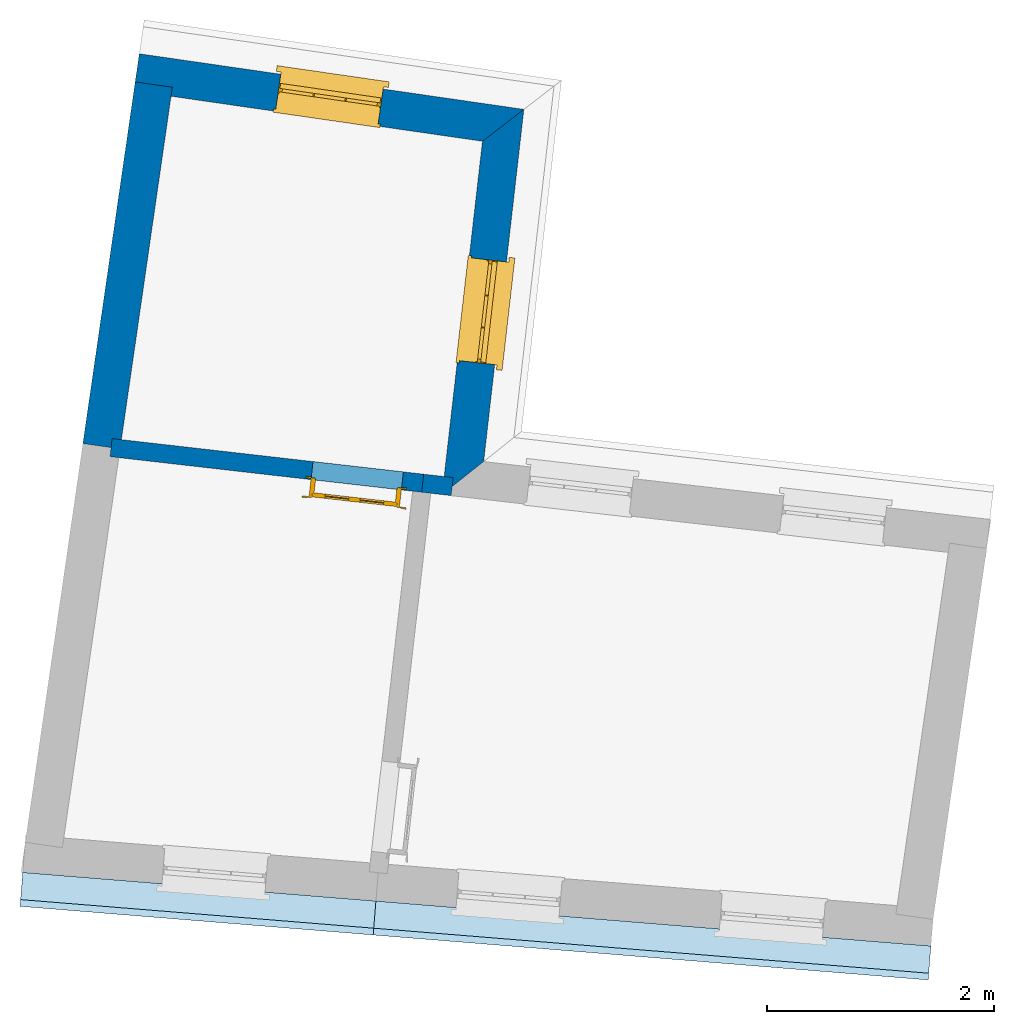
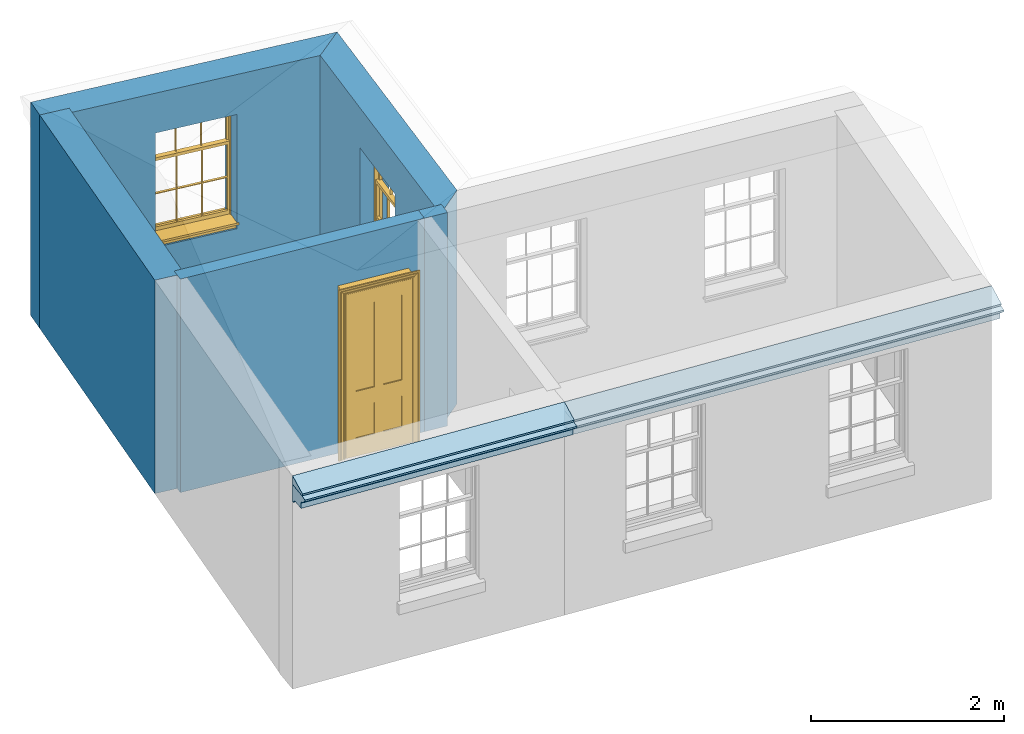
# One storey, part 2 of 3: 5 walls, 4 roofs, 2 windows, 1 door, 3 openings.
"""IFC4 building model written with IfcOpenShell, lengths in metres."""

import ifcopenshell
import ifcopenshell.guid

model = None  # the IFC model being written
_history = None  # IfcOwnerHistory: only IFC2X3 demands one
_inside = {}  # id of a spatial element -> (the spatial element, [elements in it])
_under = {}  # id of a project, library or spatial element -> (it, [spatial elements below it])
_declared = {}  # id of a project -> (the project, [libraries it declares])
_typed = {}  # id of a type object -> (the type object, [elements of that type])
_made_of = {}  # id of a material, layer set ... -> (it, [elements and type objects made of it])


def new_model(schema):
    """Start an empty IFC model of exactly this schema.

    Asked for "IFC4X3", IfcOpenShell would pick the latest addendum, in which some entities
    have other attributes; the version numbers below select the first issue.
    IFC2X3 requires an IfcOwnerHistory on every rooted entity: one is made here for all.
    """
    global model, _history
    if schema == "IFC4X3":
        model = ifcopenshell.file(schema_version=(4, 3, 0, 0))
    else:
        model = ifcopenshell.file(schema=schema)
    _inside.clear()
    _under.clear()
    _declared.clear()
    _typed.clear()
    _made_of.clear()
    _history = None
    if model.schema == "IFC2X3":
        org = make("IfcOrganization", Name="unknown")
        user = make(
            "IfcPersonAndOrganization",
            ThePerson=make("IfcPerson", FamilyName="unknown"),
            TheOrganization=org,
        )
        app = make(
            "IfcApplication",
            ApplicationDeveloper=org,
            Version="unknown",
            ApplicationFullName="unknown",
            ApplicationIdentifier="unknown",
        )
        _history = make(
            "IfcOwnerHistory",
            OwningUser=user,
            OwningApplication=app,
            ChangeAction="ADDED",
            CreationDate=0,
        )
    return model


def make(cls, **values):
    """One entity of the class cls with the attributes given. An attribute that is None is left unset."""
    return model.create_entity(
        cls, **{name: value for name, value in values.items() if value is not None}
    )


def rooted(cls, **values):
    """An entity with a GlobalId (a new one), such as an element, a storey or a relation."""
    return make(cls, GlobalId=ifcopenshell.guid.new(), OwnerHistory=_history, **values)


def si_unit(unit_type, name, prefix=None):
    """IfcSIUnit, for example si_unit("LENGTHUNIT", "METRE", prefix="MILLI")."""
    return make("IfcSIUnit", UnitType=unit_type, Prefix=prefix, Name=name)


def assignment(units):
    """IfcUnitAssignment: the units of a project."""
    return None if units is None else make("IfcUnitAssignment", Units=units)


def point(xyz):
    """IfcCartesianPoint."""
    return None if xyz is None else make("IfcCartesianPoint", Coordinates=xyz)


def direction(xyz):
    """IfcDirection."""
    return None if xyz is None else make("IfcDirection", DirectionRatios=xyz)


def frame(location, z_axis=None, x_axis=None):
    """IfcAxis2Placement3D, a coordinate frame: its origin and axes. An axis left out is left unset."""
    return make(
        "IfcAxis2Placement3D",
        Location=point(location),
        Axis=direction(z_axis),
        RefDirection=direction(x_axis),
    )


def origin():
    """The frame at (0, 0, 0) with its axes left unset."""
    return frame((0.0, 0.0, 0.0))


def origin_with_axes():
    """The frame at (0, 0, 0) with the z axis (0, 0, 1) and the x axis (1, 0, 0) written out."""
    return frame((0.0, 0.0, 0.0), z_axis=(0.0, 0.0, 1.0), x_axis=(1.0, 0.0, 0.0))


def place(relative_to, where):
    """IfcLocalPlacement: puts the frame where relative to a parent placement (None: the world)."""
    return make(
        "IfcLocalPlacement", PlacementRelTo=relative_to, RelativePlacement=where
    )


def context(
    kind, dimensions, precision=None, world=None, true_north=None, identifier=None
):
    """IfcGeometricRepresentationContext, for example the 3D "Model" context."""
    return make(
        "IfcGeometricRepresentationContext",
        ContextIdentifier=identifier,
        ContextType=kind,
        CoordinateSpaceDimension=dimensions,
        Precision=precision,
        WorldCoordinateSystem=world,
        TrueNorth=true_north,
    )


def subcontext(parent, identifier, kind, view, scale=None):
    """IfcGeometricRepresentationSubContext, for example "Body" below "Model"."""
    return make(
        "IfcGeometricRepresentationSubContext",
        ContextIdentifier=identifier,
        ContextType=kind,
        ParentContext=parent,
        TargetScale=scale,
        TargetView=view,
    )


def project(units=None, contexts=None):
    """IfcProject with its units and contexts."""
    return rooted(
        "IfcProject",
        Name="project",
        RepresentationContexts=contexts,
        UnitsInContext=assignment(units),
    )


def spatial(cls, under=None, at=None, **own):
    """A site, building, storey or space (cls), placed at a placement, below another one or the project."""
    s = rooted(cls, ObjectPlacement=at, **own)
    if under is not None:
        _under.setdefault(under.id(), (under, []))[1].append(s)
    return s


def polyline(points):
    """IfcPolyline through the points."""
    return make("IfcPolyline", Points=[point(p) for p in points])


def outline(outer, holes=None, kind="AREA"):
    """IfcArbitraryClosedProfileDef: a profile drawn as a closed curve; with holes, ...WithVoids."""
    if holes is None:
        return make("IfcArbitraryClosedProfileDef", ProfileType=kind, OuterCurve=outer)
    return make(
        "IfcArbitraryProfileDefWithVoids",
        ProfileType=kind,
        OuterCurve=outer,
        InnerCurves=holes,
    )


def extrude(swept, where, along, depth):
    """IfcExtrudedAreaSolid: the profile swept, set in the frame where, extruded along a direction by depth."""
    return make(
        "IfcExtrudedAreaSolid",
        SweptArea=swept,
        Position=where,
        ExtrudedDirection=direction(along),
        Depth=depth,
    )


def clip(a, b, op="DIFFERENCE"):
    """IfcBooleanClippingResult: the solid a cut by the half space b."""
    return make(
        "IfcBooleanClippingResult", Operator=op, FirstOperand=a, SecondOperand=b
    )


def halfspace(plane, agree):
    """IfcHalfSpaceSolid: all space on one side of the plane z = 0 of the frame plane."""
    return make(
        "IfcHalfSpaceSolid",
        BaseSurface=make("IfcPlane", Position=plane),
        AgreementFlag=agree,
    )


def faces_of(points, faces, orient=None, outer=None):
    """IfcFace entities. A face is a list of loops; a loop is a list of indices into points, from 0.

    orient and outer hold one flag for each loop. By default every Orientation is true, the
    first loop of a face is its IfcFaceOuterBound and the others are IfcFaceBound.
    """
    made = []
    for i, loops in enumerate(faces):
        bounds = []
        for j, loop in enumerate(loops):
            is_outer = j == 0 if outer is None else outer[i][j]
            bounds.append(
                make(
                    "IfcFaceOuterBound" if is_outer else "IfcFaceBound",
                    Bound=make("IfcPolyLoop", Polygon=[points[k] for k in loop]),
                    Orientation=True if orient is None else orient[i][j],
                )
            )
        made.append(make("IfcFace", Bounds=bounds))
    return made


def faceted_brep(points, faces, orient=None, outer=None, voids=None):
    """IfcFacetedBrep: a solid bounded by flat faces; with voids (closed shells), ...WithVoids."""
    shared = [point(p) for p in points]
    hull = make("IfcClosedShell", CfsFaces=faces_of(shared, faces, orient, outer))
    if voids is None:
        return make("IfcFacetedBrep", Outer=hull)
    return make(
        "IfcFacetedBrepWithVoids",
        Outer=hull,
        Voids=[
            make(cls, CfsFaces=faces_of(shared, fs, o, b)) for cls, fs, o, b in voids
        ],
    )


def shape(context_of_items, identifier, shape_type, items):
    """IfcShapeRepresentation: the items that make up one representation, for example the "Body"."""
    return make(
        "IfcShapeRepresentation",
        ContextOfItems=context_of_items,
        RepresentationIdentifier=identifier,
        RepresentationType=shape_type,
        Items=items,
    )


def source(mapping_origin, context_of_items, identifier, shape_type, items):
    """IfcRepresentationMap: a shape defined once, which mapped items show again and again."""
    return make(
        "IfcRepresentationMap",
        MappingOrigin=mapping_origin,
        MappedRepresentation=shape(context_of_items, identifier, shape_type, items),
    )


def transform(
    local_origin,
    x_axis=None,
    y_axis=None,
    z_axis=None,
    scale=None,
    scale2=None,
    scale3=None,
    uniform=True,
):
    """IfcCartesianTransformationOperator3D, or its non-uniform kind. x_axis, y_axis, z_axis: its Axis1, 2, 3."""
    if uniform:
        return make(
            "IfcCartesianTransformationOperator3D",
            Axis1=direction(x_axis),
            Axis2=direction(y_axis),
            LocalOrigin=point(local_origin),
            Scale=scale,
            Axis3=direction(z_axis),
        )
    return make(
        "IfcCartesianTransformationOperator3DnonUniform",
        Axis1=direction(x_axis),
        Axis2=direction(y_axis),
        LocalOrigin=point(local_origin),
        Scale=scale,
        Axis3=direction(z_axis),
        Scale2=scale2,
        Scale3=scale3,
    )


def mapped(mapping_source, mapping_target):
    """IfcMappedItem: shows the shape of a source again, moved by a transform."""
    return make(
        "IfcMappedItem", MappingSource=mapping_source, MappingTarget=mapping_target
    )


def material(Name=None, Category=None):
    """IfcMaterial."""
    return make("IfcMaterial", Name=Name, Category=Category)


def layer(
    of_material, thickness, ventilated=None, Name=None, Category=None, Priority=None
):
    """IfcMaterialLayer: one layer of a wall or slab, of a material (None: an air gap)."""
    return make(
        "IfcMaterialLayer",
        Material=of_material,
        LayerThickness=thickness,
        IsVentilated=ventilated,
        Name=Name,
        Category=Category,
        Priority=Priority,
    )


def layer_set(layers, Name=None):
    """IfcMaterialLayerSet."""
    return make("IfcMaterialLayerSet", MaterialLayers=layers, LayerSetName=Name)


def layer_usage(for_layer_set, set_direction, sense, offset, extent=None):
    """IfcMaterialLayerSetUsage: how a layer set lies in its element."""
    return make(
        "IfcMaterialLayerSetUsage",
        ForLayerSet=for_layer_set,
        LayerSetDirection=set_direction,
        DirectionSense=sense,
        OffsetFromReferenceLine=offset,
        ReferenceExtent=extent,
    )


def material_profile(
    of_material, cross_section, Name=None, Category=None, Priority=None
):
    """IfcMaterialProfile: a cross section and its material."""
    return make(
        "IfcMaterialProfile",
        Name=Name,
        Material=of_material,
        Profile=cross_section,
        Priority=Priority,
        Category=Category,
    )


def profile_set(profiles, Name=None, composite=None):
    """IfcMaterialProfileSet."""
    return make(
        "IfcMaterialProfileSet",
        Name=Name,
        MaterialProfiles=profiles,
        CompositeProfile=composite,
    )


def profile_usage(for_profile_set, cardinal=None, extent=None):
    """IfcMaterialProfileSetUsage: how a profile set lies along its element."""
    return make(
        "IfcMaterialProfileSetUsage",
        ForProfileSet=for_profile_set,
        CardinalPoint=cardinal,
        ReferenceExtent=extent,
    )


def made_of(thing, what):
    """Note that an element or type object is made of a material, layer set ...; save() writes the relation."""
    if what is not None:
        _made_of.setdefault(what.id(), (what, []))[1].append(thing)
    return thing


def type_object(cls, material=None, **own):
    """A type object (cls), such as IfcWallType, which elements share."""
    return made_of(rooted(cls, **own), material)


def type_shapes(of_type, sources):
    """Give a type object the sources (RepresentationMaps) that its elements show as mapped items."""
    of_type.RepresentationMaps = sources


def element(
    cls,
    number,
    at=None,
    inside=None,
    cuts=None,
    type_object=None,
    material=None,
    context=None,
    identifier="Body",
    shape_type=None,
    held_by="IfcProductDefinitionShape",
    body=None,
    shapes=None,
    **own,
):
    """One element of the class cls, such as IfcWall. Its Tag is "e" and its number.

    at: its placement. inside: the storey or other place that contains it. cuts: it is an
    opening in that element (IfcRelVoidsElement). A single representation is given by context,
    identifier, shape_type and body (its items); several are given by shapes. held_by: the class
    of the entity that holds the representations. save() writes the other relations.
    """
    e = rooted(cls, Tag="e%d" % number, ObjectPlacement=at, **own)
    if body is not None:
        shapes = [shape(context, identifier, shape_type, body)]
    if shapes is not None:
        e.Representation = make(held_by, Representations=shapes)
    if inside is not None:
        _inside.setdefault(inside.id(), (inside, []))[1].append(e)
    if cuts is not None:
        rooted(
            "IfcRelVoidsElement", RelatingBuildingElement=cuts, RelatedOpeningElement=e
        )
    if type_object is not None:
        _typed.setdefault(type_object.id(), (type_object, []))[1].append(e)
    return made_of(e, material)


def fill(opening, filler):
    """IfcRelFillsElement: the door or window that sits in an opening."""
    return rooted(
        "IfcRelFillsElement",
        RelatingOpeningElement=opening,
        RelatedBuildingElement=filler,
    )


def aggregate(whole, parts):
    """IfcRelAggregates: a whole, such as a stair, and the parts it consists of."""
    return rooted("IfcRelAggregates", RelatingObject=whole, RelatedObjects=parts)


def save(model, path):
    """Write the relations noted so far, then the file.

    IfcRelAggregates (storeys below a building ...), IfcRelContainedInSpatialStructure (elements
    in a storey), IfcRelDefinesByType, IfcRelAssociatesMaterial and IfcRelDeclares: one each for
    every whole, place, type object, material and project.
    """
    for whole, parts in _under.values():
        aggregate(whole, parts)
    for where, things in _inside.values():
        rooted(
            "IfcRelContainedInSpatialStructure",
            RelatedElements=things,
            RelatingStructure=where,
        )
    for kind, things in _typed.values():
        rooted("IfcRelDefinesByType", RelatedObjects=things, RelatingType=kind)
    for what, things in _made_of.values():
        rooted("IfcRelAssociatesMaterial", RelatedObjects=things, RelatingMaterial=what)
    for by, libraries in _declared.values():
        rooted("IfcRelDeclares", RelatingContext=by, RelatedDefinitions=libraries)
    model.write(path)


model = new_model("IFC4")

# Units and contexts
model_context = context("Model", 3, world=origin_with_axes())
body_context = subcontext(model_context, "Body", "Model", "MODEL_VIEW")
ifc_project = project(units=[si_unit("PLANEANGLEUNIT", "RADIAN"), si_unit("MASSUNIT", "GRAM", prefix="KILO"), si_unit("FORCEUNIT", "NEWTON", prefix="KILO"), si_unit("LENGTHUNIT", "METRE"), si_unit("AREAUNIT", "SQUARE_METRE"), si_unit("VOLUMEUNIT", "CUBIC_METRE")], contexts=[model_context, model_context])

# Sites, building, storey
site_1_placement = place(None, origin_with_axes())
site_1 = spatial("IfcSite", under=ifc_project, at=site_1_placement, Name="Tamar")
site_2_placement = place(site_1_placement, origin_with_axes())
site_2 = spatial("IfcSite", under=site_1, at=site_2_placement, Name="Site plot-31", CompositionType="ELEMENT")
building_placement = place(None, origin_with_axes())
building = spatial("IfcBuilding", under=site_2, at=building_placement, Name="Building plot-31", CompositionType="ELEMENT")
storey_placement = place(None, frame((0.0, 0.0, 31.35), z_axis=(0.0, 0.0, 1.0), x_axis=(1.0, 0.0, 0.0)))
storey = spatial("IfcBuildingStorey", under=building, at=storey_placement, Name="plot-31 2", CompositionType="ELEMENT", Elevation=31.35)

# Wall, opening, window
ifc_material_1 = material(Name="Masonry")
ifc_layer_1 = layer(ifc_material_1, 0.33, ventilated=False)
ifc_layer_set_1 = layer_set([ifc_layer_1], Name="exterior_0.08_0.25")
ifc_layer_usage_1 = layer_usage(ifc_layer_set_1, "AXIS2", "POSITIVE", -0.25)
wall_type_1 = type_object("IfcWallType", Name="exterior_0.08_0.25", PredefinedType="SOLIDWALL", material=ifc_layer_set_1)
wall_1_placement = place(storey_placement, frame((295.967464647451, 261.050056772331, 0.0), z_axis=(0.0, 0.0, 1.0), x_axis=(0.113496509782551, 0.993538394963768, 0.0)))
wall_1 = element("IfcWall", 1, at=wall_1_placement, inside=storey, type_object=wall_type_1, material=ifc_layer_usage_1, Name="exterior", context=body_context, shape_type="SweptSolid", body=[
    extrude(outline(polyline([(-0.0800000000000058, 0.0800000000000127), (0.249999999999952, -0.249999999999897), (3.36822467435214, -0.249999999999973), (3.04793766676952, 0.0800000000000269), (-0.0800000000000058, 0.0800000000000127)])), origin_with_axes(), (0.0, 0.0, 1.0), 2.7),
])
opening_1_placement = place(wall_1_placement, frame((1.10779150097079, 0.0, 0.75)))
opening_1 = element("IfcOpeningElement", 2, at=opening_1_placement, cuts=wall_1, Name="My Opening", ObjectType="Opening", context=body_context, shape_type="SweptSolid", body=[
    extrude(outline(polyline([(0.0, -0.270000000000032), (0.909999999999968, -0.269999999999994), (0.909999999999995, 1.1), (2.77555756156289e-14, 1.09999999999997), (0.0, -0.270000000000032)])), origin_with_axes(), (0.0, 0.0, 1.0), 1.445),
])
window_type = type_object("IfcWindowType", Name="sash_shorter", PartitioningType="DOUBLE_PANEL_HORIZONTAL", PredefinedType="NOTDEFINED")
shared_shape_1 = source(origin(), body_context, "Body", "Brep", [
    faceted_brep([(0.876875, 0.145, 0.999097), (0.876875, 0.145, 1.411875), (0.9, 0.145, 1.435), (0.033125, 0.145, 1.411875), (0.033125, 0.145, 0.999097), (0.01, 0.145, 1.435), (0.033125, 0.115, 1.411875), (0.01, 0.115, 1.435), (0.033125, 0.115, 0.999097), (0.876875, 0.115, 1.411875), (0.876875, 0.115, 0.999097), (0.9, 0.115, 1.435), (0.033125, 0.145, 0.960972), (0.01, 0.145, 0.960972), (0.033125, 0.145, 0.548195), (0.876875, 0.145, 0.960972), (0.876875, 0.145, 0.548195), (0.9, 0.145, 0.960972), (0.876875, 0.145, 0.538195), (0.876875, 0.145, 0.125417), (0.9, 0.145, 0.077167), (0.033125, 0.145, 0.125417), (0.033125, 0.145, 0.538195), (0.01, 0.145, 0.077167), (0.9, 0.115, 0.960972), (0.01, 0.115, 0.960972), (-0.0425, 0.0, 0.01), (-0.0425, -0.05, 0.001667), (0.0, 0.0, 0.01), (0.9525, 0.0, 0.01), (0.91, 0.0, 0.01), (0.9525, -0.05, 0.001667), (-0.02, 0.33, 0.077167), (0.0, 0.33, 0.077167), (-0.02, 0.36, 0.077167), (0.0, 0.19, 0.077167), (0.01, 0.19, 0.077167), (0.91, 0.19, 0.077167), (0.91, 0.33, 0.077167), (0.9, 0.19, 0.077167), (0.93, 0.33, 0.077167), (0.93, 0.36, 0.077167), (0.01, 0.145, 0.999097), (0.01, 0.175, 0.999097), (0.9, 0.145, 0.999097), (0.9, 0.175, 0.999097), (0.876875, 0.175, 0.125417), (0.876875, 0.175, 0.538195), (0.9, 0.175, 0.077167), (0.876875, 0.175, 0.548195), (0.876875, 0.175, 0.960972), (0.033125, 0.175, 0.125417), (0.01, 0.175, 0.077167), (0.033125, 0.175, 0.538195), (0.033125, 0.175, 0.960972), (0.033125, 0.175, 0.548195), (-0.02, 0.33, 0.052167), (-0.02, 0.36, 0.052167), (0.93, 0.36, 0.052167), (0.93, 0.33, 0.052167), (0.91, 0.33, 0.052167), (0.0, 0.33, 0.052167), (0.91, 0.1, 0.026667), (0.0, 0.1, 0.026667), (-0.0425, -0.05, -0.123333), (0.9525, -0.05, -0.123333), (-0.0425, 0.0, -0.123333), (0.9525, 0.0, -0.123333), (0.01, 0.19, 1.435), (0.9, 0.19, 1.435), (0.0, 0.19, 1.445), (0.91, 0.19, 1.445), (0.01, 0.1, 0.077167), (0.9, 0.1, 0.077167), (0.592292, 0.145, 0.125417), (0.592292, 0.175, 0.125417), (0.317708, 0.175, 0.125417), (0.317708, 0.145, 0.125417), (0.592292, 0.145, 0.548195), (0.317708, 0.145, 0.548195), (0.317708, 0.145, 0.538195), (0.592292, 0.145, 0.538195), (0.592292, 0.175, 0.548195), (0.317708, 0.175, 0.548195), (0.602292, 0.175, 0.548195), (0.602292, 0.145, 0.548195), (0.317708, 0.175, 0.538195), (0.307708, 0.175, 0.125417), (0.307708, 0.175, 0.538195), (0.602292, 0.175, 0.538195), (0.602292, 0.175, 0.125417), (0.592292, 0.175, 0.538195), (0.307708, 0.175, 0.548195), (0.317708, 0.175, 0.960972), (0.307708, 0.175, 0.960972), (0.602292, 0.175, 0.960972), (0.592292, 0.175, 0.960972), (0.307708, 0.145, 0.538195), (0.307708, 0.145, 0.125417), (0.307708, 0.145, 0.548195), (0.307708, 0.145, 0.960972), (0.592292, 0.145, 0.960972), (0.317708, 0.145, 0.960972), (0.602292, 0.145, 0.960972), (0.602292, 0.145, 0.538195), (0.602292, 0.145, 0.125417), (0.317708, 0.115, 1.411875), (0.307708, 0.115, 1.411875), (0.307708, 0.115, 0.999097), (0.317708, 0.115, 0.999097), (0.602292, 0.115, 1.411875), (0.592292, 0.115, 1.411875), (0.592292, 0.115, 0.999097), (0.602292, 0.115, 0.999097), (0.317708, 0.145, 0.999097), (0.307708, 0.145, 0.999097), (0.307708, 0.145, 1.411875), (0.317708, 0.145, 1.411875), (0.602292, 0.145, 0.999097), (0.592292, 0.145, 0.999097), (0.592292, 0.145, 1.411875), (0.602292, 0.145, 1.411875), (0.91, 0.1, 1.445), (0.9, 0.1, 1.435), (0.01, 0.1, 1.435), (0.0, 0.1, 1.445), (0.91, 0.0, 0.0), (0.0, 0.0, 0.0), (0.91, 0.33, 0.0), (0.0, 0.33, 0.0)], [[[0, 1, 2]], [[3, 4, 5]], [[6, 7, 8]], [[9, 10, 11]], [[12, 13, 14]], [[15, 16, 17]], [[18, 19, 20]], [[21, 22, 23]], [[24, 15, 17]], [[13, 12, 25]], [[26, 27, 28]], [[29, 30, 31]], [[32, 33, 34]], [[35, 36, 33]], [[37, 38, 39]], [[40, 41, 38]], [[42, 4, 43]], [[44, 45, 0]], [[46, 47, 48]], [[49, 50, 45]], [[51, 52, 53]], [[54, 55, 43]], [[38, 33, 36, 39]], [[41, 34, 33, 38]], [[56, 32, 34, 57]], [[57, 34, 41, 58]], [[58, 41, 40, 59]], [[57, 58, 60, 61]], [[52, 48, 39, 36]], [[62, 63, 28, 30]], [[27, 31, 30, 28]], [[27, 64, 65, 31]], [[66, 67, 65, 64]], [[2, 5, 68, 69]], [[68, 70, 71, 69]], [[20, 23, 72, 73]], [[73, 72, 63, 62]], [[74, 75, 76, 77]], [[78, 79, 80, 81]], [[78, 82, 83, 79]], [[16, 49, 84, 85]], [[86, 76, 87, 88]], [[89, 90, 75, 91]], [[92, 88, 53, 55]], [[82, 91, 86, 83]], [[93, 83, 92, 94]], [[95, 84, 82, 96]], [[89, 84, 49, 47]], [[97, 88, 87, 98]], [[22, 53, 88, 97]], [[81, 91, 75, 74]], [[80, 86, 91, 81]], [[77, 76, 86, 80]], [[99, 92, 55, 14]], [[100, 94, 92, 99]], [[101, 96, 82, 78]], [[79, 83, 93, 102]], [[85, 84, 95, 103]], [[104, 89, 47, 18]], [[105, 90, 89, 104]], [[104, 18, 16, 85]], [[80, 97, 98, 77]], [[104, 81, 74, 105]], [[103, 101, 78, 85]], [[99, 14, 22, 97]], [[102, 100, 99, 79]], [[106, 107, 108, 109]], [[110, 111, 112, 113]], [[114, 115, 116, 117]], [[118, 119, 120, 121]], [[107, 116, 115, 108]], [[111, 120, 119, 112]], [[109, 114, 117, 106]], [[113, 118, 121, 110]], [[85, 78, 81, 104]], [[84, 89, 91, 82]], [[83, 86, 88, 92]], [[79, 99, 97, 80]], [[109, 112, 119, 114]], [[102, 93, 96, 101]], [[106, 117, 120, 111]], [[98, 87, 51, 21]], [[6, 3, 116, 107]], [[110, 121, 1, 9]], [[19, 46, 90, 105]], [[26, 66, 64, 27]], [[29, 31, 65, 67]], [[25, 24, 112, 109]], [[11, 7, 106, 111]], [[75, 48, 52, 76]], [[43, 45, 96, 93]], [[45, 43, 114, 119]], [[5, 2, 120, 117]], [[24, 25, 102, 101]], [[42, 5, 4]], [[2, 44, 0]], [[49, 45, 48, 47]], [[52, 43, 55, 53]], [[14, 13, 23, 22]], [[20, 17, 16, 18]], [[24, 11, 10]], [[25, 8, 7]], [[8, 4, 3, 6]], [[9, 1, 0, 10]], [[15, 50, 49, 16]], [[18, 47, 46, 19]], [[21, 51, 53, 22]], [[14, 55, 54, 12]], [[44, 2, 69, 45]], [[68, 5, 42, 43]], [[36, 35, 70, 68]], [[39, 69, 71, 37]], [[62, 122, 123, 73]], [[63, 72, 124, 125]], [[8, 108, 115, 4]], [[113, 10, 0, 118]], [[94, 100, 12, 54]], [[17, 20, 73, 24]], [[72, 23, 13, 25]], [[52, 36, 68, 43]], [[69, 39, 48, 45]], [[11, 24, 73, 123]], [[7, 124, 72, 25]], [[23, 77, 98]], [[98, 21, 23]], [[105, 74, 20]], [[20, 19, 105]], [[20, 74, 77, 23]], [[113, 112, 24]], [[24, 10, 113]], [[25, 109, 108]], [[108, 8, 25]], [[110, 9, 11]], [[11, 111, 110]], [[7, 6, 107]], [[107, 106, 7]], [[5, 117, 116]], [[116, 3, 5]], [[121, 120, 2]], [[2, 1, 121]], [[11, 123, 124, 7]], [[122, 125, 124, 123]], [[43, 93, 94]], [[94, 54, 43]], [[96, 45, 95]], [[50, 95, 45]], [[15, 103, 95, 50]], [[48, 75, 90]], [[90, 46, 48]], [[87, 76, 52]], [[52, 51, 87]], [[103, 15, 24]], [[24, 101, 103]], [[100, 102, 25]], [[25, 12, 100]], [[115, 114, 43]], [[43, 4, 115]], [[118, 0, 45]], [[45, 119, 118]], [[71, 70, 125, 122]], [[70, 35, 63, 125]], [[122, 62, 37, 71]], [[126, 67, 66, 127]], [[60, 58, 59]], [[38, 60, 59, 40]], [[61, 56, 57]], [[32, 56, 61, 33]], [[61, 60, 128, 129]], [[62, 60, 38, 37]], [[126, 128, 60, 62]], [[33, 61, 63, 35]], [[61, 129, 127, 63]], [[128, 126, 127, 129]], [[28, 127, 66, 26]], [[63, 127, 28]], [[29, 67, 126, 30]], [[30, 126, 62]]]),
])
type_shapes(window_type, [shared_shape_1])
window_1_placement = place(storey_placement, frame((296.361450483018, 262.120046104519, 0.75), z_axis=(0.0, 0.0, 1.0), x_axis=(0.10328182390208, 0.904119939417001, 0.0)))
window_1 = element("IfcWindow", 3, at=window_1_placement, inside=storey, type_object=window_type, Name="bedroom outside window", OverallHeight=1.445, OverallWidth=0.91, context=body_context, shape_type="MappedRepresentation", body=[
    mapped(shared_shape_1, transform((0.0, 0.0, 0.0), scale=1.0)),
])
fill(opening_1, window_1)

wall_2_placement = place(storey_placement, frame((296.322207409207, 264.155443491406, 0.0), z_axis=(0.0, 0.0, 1.0), x_axis=(-0.989705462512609, 0.143119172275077, 0.0)))
wall_2 = element("IfcWall", 4, at=wall_2_placement, inside=storey, type_object=wall_type_1, material=ifc_layer_usage_1, Name="exterior", context=body_context, shape_type="SweptSolid", body=[
    extrude(outline(polyline([(0.0776453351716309, 0.0800000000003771), (-0.24264167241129, -0.249999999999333), (3.17549813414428, -0.249999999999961), (3.17549813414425, 0.0800000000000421), (0.0776453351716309, 0.0800000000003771)])), origin_with_axes(), (0.0, 0.0, 1.0), 2.7),
])
opening_2_placement = place(wall_2_placement, frame((1.00774906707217, 0.0, 0.75)))
opening_2 = element("IfcOpeningElement", 5, at=opening_2_placement, cuts=wall_2, Name="My Opening", ObjectType="Opening", context=body_context, shape_type="SweptSolid", body=[
    extrude(outline(polyline([(0.0, -0.269999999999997), (0.909999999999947, -0.269999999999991), (0.909999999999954, 1.10000000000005), (5.99520433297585e-15, 1.10000000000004), (0.0, -0.269999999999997)])), origin_with_axes(), (0.0, 0.0, 1.0), 1.445),
])
window_2_placement = place(storey_placement, frame((295.363474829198, 264.566892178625, 0.75), z_axis=(0.0, 0.0, 1.0), x_axis=(-0.900631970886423, 0.130238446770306, 0.0)))
window_2 = element("IfcWindow", 6, at=window_2_placement, inside=storey, type_object=window_type, Name="bedroom outside window", OverallHeight=1.445, OverallWidth=0.91, context=body_context, shape_type="MappedRepresentation", body=[
    mapped(shared_shape_1, transform((0.0, 0.0, 0.0), scale=1.0)),
])
fill(opening_2, window_2)

# Walls
ifc_material_2 = material(Name="Masonry")
ifc_layer_2 = layer(ifc_material_2, 0.33, ventilated=False)
ifc_layer_set_2 = layer_set([ifc_layer_2], Name="party_0.08_0.25")
ifc_layer_usage_2 = layer_usage(ifc_layer_set_2, "AXIS2", "POSITIVE", -0.25)
wall_type_2 = type_object("IfcWallType", Name="party_0.08_0.25", PredefinedType="SOLIDWALL", material=ifc_layer_set_2)
wall_3_placement = place(storey_placement, frame((293.426825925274, 264.574138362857, 0.0), z_axis=(0.0, 0.0, 1.0), x_axis=(-0.143119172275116, -0.989705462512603, 0.0)))
element("IfcWall", 7, at=wall_3_placement, inside=storey, type_object=wall_type_2, material=ifc_layer_usage_2, Name="party", context=body_context, shape_type="SweptSolid", body=[
    extrude(outline(polyline([(1.47744398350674e-15, 0.0800000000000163), (-1.97466617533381e-14, -0.249999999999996), (3.21439066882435, -0.249999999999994), (3.21439066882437, 0.0800000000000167), (1.47744398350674e-15, 0.0800000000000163)])), origin_with_axes(), (0.0, 0.0, 1.0), 2.7),
])
ifc_material_3 = material(Name="Masonry")
ifc_layer_3 = layer(ifc_material_3, 0.16, ventilated=False)
ifc_layer_set_3 = layer_set([ifc_layer_3], Name="interior_0.08_0.08")
ifc_layer_usage_3 = layer_usage(ifc_layer_set_3, "AXIS2", "POSITIVE", -0.08)
wall_type_3 = type_object("IfcWallType", Name="interior_0.08_0.08", PredefinedType="SOLIDWALL", material=ifc_layer_set_3)
wall_4_placement = place(storey_placement, frame((295.708183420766, 261.079675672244, 0.0), z_axis=(0.0, 0.0, 1.0), x_axis=(0.993538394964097, -0.113496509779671, 0.0)))
element("IfcWall", 8, at=wall_4_placement, inside=storey, type_object=wall_type_3, material=ifc_layer_usage_3, Name="interior", context=body_context, shape_type="SweptSolid", body=[
    extrude(outline(polyline([(9.40182626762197e-15, 0.0799999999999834), (-9.39385987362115e-15, -0.0799999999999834), (0.260967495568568, -0.0799999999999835), (0.260967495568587, 0.0799999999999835), (9.40182626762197e-15, 0.0799999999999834)])), origin_with_axes(), (0.0, 0.0, 1.0), 2.7),
])

# Wall, opening, door
wall_5_placement = place(storey_placement, frame((295.708183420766, 261.079675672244, 0.0), z_axis=(0.0, 0.0, 1.0), x_axis=(-0.993538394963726, 0.113496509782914, 0.0)))
wall_5 = element("IfcWall", 9, at=wall_5_placement, inside=storey, type_object=wall_type_3, material=ifc_layer_usage_3, Name="interior", context=body_context, shape_type="SweptSolid", body=[
    extrude(outline(polyline([(-2.575227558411e-14, 0.0800000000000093), (2.57975998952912e-14, -0.0800000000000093), (2.75922746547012, -0.0800000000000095), (2.75922746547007, 0.0800000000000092), (-2.575227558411e-14, 0.0800000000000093)])), origin_with_axes(), (0.0, 0.0, 1.0), 2.7),
])
opening_3_placement = place(wall_5_placement, frame((0.180000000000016, 0.0, 0.0199999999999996)))
opening_3 = element("IfcOpeningElement", 10, at=opening_3_placement, cuts=wall_5, Name="My Opening", ObjectType="Opening", context=body_context, shape_type="SweptSolid", body=[
    extrude(outline(polyline([(0.0, -0.100000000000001), (0.800000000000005, -0.0999999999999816), (0.799999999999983, 1.09999999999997), (-2.2509771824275e-14, 1.09999999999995), (0.0, -0.100000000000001)])), origin_with_axes(), (0.0, 0.0, 1.0), 2.1),
])
door_type = type_object("IfcDoorType", Name="door_inside", OperationType="SINGLE_SWING_LEFT", PredefinedType="NOTDEFINED")
shared_shape_2 = source(origin(), body_context, "Body", "Brep", [
    faceted_brep([(0.773, 0.33, 1.895), (0.66, 0.33, 1.895), (0.66, 0.33, 2.073), (0.773, 0.33, 2.073), (0.773, 0.33, 0.82), (0.66, 0.33, 0.82), (0.45, 0.33, 1.895), (0.45, 0.33, 2.073), (0.773, 0.33, 0.62), (0.66, 0.33, 0.62), (0.66, 0.315, 0.82), (0.66, 0.315, 1.895), (0.45, 0.315, 1.895), (0.35, 0.33, 1.895), (0.35, 0.33, 2.073), (0.773, 0.33, 0.225), (0.66, 0.33, 0.225), (0.45, 0.33, 0.62), (0.45, 0.33, 0.82), (0.45, 0.315, 0.82), (0.35, 0.33, 0.82), (0.14, 0.33, 2.073), (0.14, 0.33, 1.895), (0.773, 0.33, 0.0), (0.66, 0.33, 0.0), (0.66, 0.315, 0.225), (0.66, 0.315, 0.62), (0.45, 0.315, 0.62), (0.35, 0.33, 0.62), (0.35, 0.315, 0.82), (0.35, 0.315, 1.895), (0.14, 0.315, 1.895), (0.027, 0.33, 2.073), (0.027, 0.33, 1.895), (0.773, 0.292, 0.0), (0.66, 0.292, 0.0), (0.45, 0.33, 0.0), (0.45, 0.33, 0.225), (0.45, 0.315, 0.225), (0.35, 0.33, 0.225), (0.14, 0.33, 0.82), (0.14, 0.33, 0.62), (0.14, 0.315, 0.82), (0.027, 0.33, 0.82), (0.773, 0.292, 0.225), (0.66, 0.292, 0.225), (0.45, 0.292, 0.0), (0.35, 0.33, 0.0), (0.35, 0.315, 0.225), (0.35, 0.315, 0.62), (0.14, 0.315, 0.62), (0.027, 0.33, 0.62), (0.773, 0.292, 0.62), (0.66, 0.292, 0.62), (0.45, 0.292, 0.225), (0.35, 0.292, 0.0), (0.14, 0.33, 0.225), (0.14, 0.33, 0.0), (0.14, 0.315, 0.225), (0.027, 0.33, 0.225), (0.773, 0.292, 0.82), (0.66, 0.292, 0.82), (0.66, 0.307, 0.62), (0.66, 0.307, 0.225), (0.45, 0.307, 0.225), (0.35, 0.292, 0.225), (0.14, 0.292, 0.0), (0.027, 0.33, 0.0), (0.773, 0.292, 1.895), (0.66, 0.292, 1.895), (0.45, 0.292, 0.62), (0.45, 0.292, 0.82), (0.45, 0.307, 0.62), (0.35, 0.292, 0.62), (0.14, 0.292, 0.225), (0.027, 0.292, 0.0), (0.773, 0.292, 2.073), (0.66, 0.292, 2.073), (0.66, 0.307, 1.895), (0.66, 0.307, 0.82), (0.45, 0.307, 0.82), (0.35, 0.292, 0.82), (0.35, 0.307, 0.62), (0.35, 0.307, 0.225), (0.14, 0.307, 0.225), (0.027, 0.292, 0.225), (0.45, 0.292, 1.895), (0.45, 0.292, 2.073), (0.45, 0.307, 1.895), (0.35, 0.292, 1.895), (0.14, 0.292, 0.82), (0.14, 0.292, 0.62), (0.14, 0.307, 0.62), (0.027, 0.292, 0.62), (0.35, 0.292, 2.073), (0.35, 0.307, 1.895), (0.35, 0.307, 0.82), (0.14, 0.307, 0.82), (0.027, 0.292, 0.82), (0.14, 0.292, 2.073), (0.14, 0.292, 1.895), (0.14, 0.307, 1.895), (0.027, 0.292, 1.895), (0.027, 0.292, 2.073), (0.02, 0.335, 0.0), (0.005, 0.34, 0.0), (0.005, 0.34, 2.095), (0.02, 0.335, 2.08), (0.02, 0.33, 0.0), (0.0, 0.335, 0.0), (0.0, 0.335, 2.1), (0.795, 0.34, 2.095), (0.78, 0.335, 2.08), (0.02, 0.33, 2.08), (0.0, 0.33, 0.0), (-0.032, 0.345, 0.0), (-0.032, 0.345, 2.132), (0.8, 0.335, 2.1), (0.795, 0.34, 0.0), (0.78, 0.335, 0.0), (0.78, 0.33, 2.08), (0.04, 0.29, 0.0), (0.025, 0.29, 0.0), (0.025, 0.29, 2.075), (0.04, 0.29, 2.06), (-0.04, 0.34, 0.0), (-0.04, 0.34, 2.14), (0.832, 0.345, 2.132), (0.8, 0.335, 0.0), (0.78, 0.33, 0.0), (0.8, 0.33, 0.0), (0.86, 0.33, 0.0), (0.86, 0.33, 2.16), (0.8, 0.33, 2.1), (-0.06, 0.33, 2.16), (0.0, 0.33, 2.1), (-0.06, 0.33, 0.0), (-0.04, 0.345, 0.0), (-0.04, 0.345, 2.14), (0.84, 0.34, 2.14), (0.832, 0.345, 0.0), (0.84, 0.34, 0.0), (0.86, 0.345, 0.0), (0.86, 0.345, 2.16), (-0.06, 0.345, 2.16), (-0.06, 0.345, 0.0), (0.84, 0.345, 0.0), (0.84, 0.345, 2.14), (-0.025, 0.155, 0.0), (-0.025, 0.16, 0.0), (-0.025, 0.16, 2.125), (-0.025, 0.155, 2.125), (-0.017, 0.155, 0.0), (-0.017, 0.155, 2.117), (0.825, 0.16, 2.125), (0.825, 0.155, 2.125), (0.825, 0.155, 0.0), (0.845, 0.155, 0.0), (-0.045, 0.155, 2.145), (-0.045, 0.155, 0.0), (0.845, 0.155, 2.145), (0.015, 0.165, 0.0), (0.015, 0.165, 2.085), (0.817, 0.155, 2.117), (0.825, 0.16, 0.0), (0.845, 0.17, 0.0), (0.845, 0.17, 2.145), (-0.045, 0.17, 2.145), (-0.045, 0.17, 0.0), (0.02, 0.16, 0.0), (0.02, 0.16, 2.08), (0.785, 0.165, 2.085), (0.817, 0.155, 0.0), (0.8, 0.17, 0.0), (0.8, 0.17, 2.1), (0.0, 0.17, 2.1), (0.0, 0.17, 0.0), (0.035, 0.165, 0.0), (0.035, 0.165, 2.065), (0.78, 0.16, 2.08), (0.785, 0.165, 0.0), (0.775, 0.29, 2.075), (0.76, 0.29, 2.06), (0.035, 0.17, 2.065), (0.035, 0.17, 0.0), (0.765, 0.165, 2.065), (0.78, 0.16, 0.0), (0.765, 0.17, 0.0), (0.765, 0.17, 2.065), (0.765, 0.165, 0.0), (0.04, 0.17, 2.06), (0.04, 0.17, 0.0), (0.76, 0.17, 2.06), (0.76, 0.17, 0.0), (0.76, 0.29, 0.0), (0.775, 0.29, 0.0), (0.025, 0.33, 0.0), (0.025, 0.33, 2.075), (0.775, 0.33, 0.0), (0.775, 0.33, 2.075)], [[[0, 1, 2, 3]], [[1, 0, 4, 5]], [[1, 6, 7, 2]], [[8, 9, 5, 4]], [[1, 5, 10, 11]], [[6, 1, 11, 12]], [[6, 13, 14, 7]], [[15, 16, 9, 8]], [[9, 17, 18, 5]], [[5, 18, 19, 10]], [[10, 19, 12, 11]], [[18, 6, 12, 19]], [[18, 20, 13, 6]], [[21, 14, 13, 22]], [[23, 24, 16, 15]], [[9, 16, 25, 26]], [[17, 9, 26, 27]], [[17, 28, 20, 18]], [[13, 20, 29, 30]], [[22, 13, 30, 31]], [[32, 21, 22, 33]], [[34, 35, 24, 23]], [[24, 36, 37, 16]], [[16, 37, 38, 25]], [[25, 38, 27, 26]], [[37, 17, 27, 38]], [[37, 39, 28, 17]], [[40, 20, 28, 41]], [[20, 40, 42, 29]], [[31, 30, 29, 42]], [[40, 22, 31, 42]], [[33, 22, 40, 43]], [[35, 34, 44, 45]], [[35, 46, 36, 24]], [[36, 47, 39, 37]], [[28, 39, 48, 49]], [[41, 28, 49, 50]], [[43, 40, 41, 51]], [[45, 44, 52, 53]], [[46, 35, 45, 54]], [[46, 55, 47, 36]], [[56, 39, 47, 57]], [[39, 56, 58, 48]], [[50, 49, 48, 58]], [[56, 41, 50, 58]], [[51, 41, 56, 59]], [[53, 52, 60, 61]], [[45, 53, 62, 63]], [[54, 45, 63, 64]], [[55, 46, 54, 65]], [[55, 66, 57, 47]], [[59, 56, 57, 67]], [[61, 60, 68, 69]], [[70, 53, 61, 71]], [[53, 70, 72, 62]], [[72, 64, 63, 62]], [[70, 54, 64, 72]], [[65, 54, 70, 73]], [[65, 74, 66, 55]], [[67, 57, 66, 75]], [[69, 68, 76, 77]], [[61, 69, 78, 79]], [[71, 61, 79, 80]], [[73, 70, 71, 81]], [[65, 73, 82, 83]], [[74, 65, 83, 84]], [[74, 85, 75, 66]], [[86, 69, 77, 87]], [[69, 86, 88, 78]], [[88, 80, 79, 78]], [[86, 71, 80, 88]], [[81, 71, 86, 89]], [[73, 81, 90, 91]], [[73, 91, 92, 82]], [[83, 82, 92, 84]], [[91, 74, 84, 92]], [[91, 93, 85, 74]], [[89, 86, 87, 94]], [[81, 89, 95, 96]], [[90, 81, 96, 97]], [[90, 98, 93, 91]], [[94, 99, 100, 89]], [[89, 100, 101, 95]], [[101, 97, 96, 95]], [[100, 90, 97, 101]], [[100, 102, 98, 90]], [[99, 103, 102, 100]], [[32, 103, 99, 21]], [[102, 103, 32, 33]], [[98, 102, 33, 43]], [[21, 99, 94, 14]], [[94, 87, 7, 14]], [[7, 87, 77, 2]], [[76, 3, 2, 77]], [[43, 51, 93, 98]], [[51, 59, 85, 93]], [[67, 75, 85, 59]], [[34, 23, 15, 44]], [[44, 15, 8, 52]], [[52, 8, 4, 60]], [[0, 68, 60, 4]], [[0, 3, 76, 68]], [[104, 105, 106, 107]], [[104, 108, 109, 105]], [[105, 109, 110, 106]], [[107, 106, 111, 112]], [[107, 113, 108, 104]], [[114, 109, 108]], [[109, 115, 116, 110]], [[106, 110, 117, 111]], [[112, 111, 118, 119]], [[113, 107, 112, 120]], [[121, 122, 123, 124]], [[115, 109, 114, 125]], [[115, 125, 126, 116]], [[110, 116, 127, 117]], [[111, 117, 128, 118]], [[118, 128, 129, 119]], [[120, 112, 119, 129]], [[130, 129, 128]], [[130, 131, 132, 133]], [[133, 132, 134, 135]], [[135, 134, 136, 114]], [[136, 125, 114]], [[125, 137, 138, 126]], [[116, 126, 139, 127]], [[117, 127, 140, 128]], [[141, 130, 128, 140]], [[131, 130, 141]], [[131, 142, 143, 132]], [[132, 143, 144, 134]], [[134, 144, 145, 136]], [[137, 125, 136, 145]], [[143, 142, 146]], [[143, 146, 147]], [[137, 145, 144]], [[143, 147, 138]], [[138, 137, 144]], [[143, 138, 144]], [[126, 138, 147, 139]], [[127, 139, 141, 140]], [[142, 131, 141, 146]], [[139, 147, 146, 141]], [[148, 149, 150, 151]], [[149, 152, 153, 150]], [[151, 150, 154, 155]], [[155, 156, 157]], [[158, 159, 148]], [[158, 148, 151]], [[155, 157, 160]], [[158, 151, 155]], [[155, 160, 158]], [[152, 161, 162, 153]], [[150, 153, 163, 154]], [[155, 154, 164, 156]], [[156, 164, 165, 157]], [[157, 165, 166, 160]], [[160, 166, 167, 158]], [[158, 167, 168, 159]], [[161, 169, 170, 162]], [[153, 162, 171, 163]], [[154, 163, 172, 164]], [[165, 164, 173]], [[165, 173, 174, 166]], [[166, 174, 175, 167]], [[167, 175, 176, 168]], [[169, 177, 178, 170]], [[162, 170, 179, 171]], [[163, 171, 180, 172]], [[172, 180, 173, 164]], [[124, 123, 181, 182]], [[183, 178, 177, 184]], [[170, 178, 185, 179]], [[171, 179, 186, 180]], [[187, 173, 180]], [[185, 188, 187, 189]], [[188, 185, 178, 183]], [[179, 185, 189, 186]], [[189, 187, 180, 186]], [[190, 183, 184, 191]], [[192, 188, 183, 190]], [[191, 184, 122, 121]], [[124, 190, 191, 121]], [[193, 187, 188, 192]], [[182, 192, 190, 124]], [[184, 176, 122]], [[194, 195, 187, 193]], [[192, 182, 194, 193]], [[161, 176, 184]], [[114, 108, 122, 176]], [[173, 187, 195]], [[152, 149, 176, 161]], [[169, 161, 184, 177]], [[196, 122, 108]], [[176, 175, 135, 114]], [[173, 195, 129, 130]], [[176, 149, 168]], [[123, 122, 196, 197]], [[196, 108, 113, 197]], [[175, 174, 133, 135]], [[198, 129, 195]], [[133, 174, 173, 130]], [[159, 168, 149, 148]], [[181, 123, 197, 199]], [[197, 113, 120, 199]], [[199, 120, 129, 198]], [[195, 181, 199, 198]], [[195, 194, 182, 181]]]),
])
type_shapes(door_type, [shared_shape_2])
door_placement = place(storey_placement, frame((295.540696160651, 261.199458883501, 0.0199999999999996), z_axis=(0.0, 0.0, 1.0), x_axis=(-0.794830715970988, 0.0907972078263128, 0.0)))
door = element("IfcDoor", 11, at=door_placement, inside=storey, type_object=door_type, Name="bedroom inside door", OverallHeight=2.1, OverallWidth=0.8, context=body_context, shape_type="MappedRepresentation", body=[
    mapped(shared_shape_2, transform((0.0, 0.0, 0.0), scale=1.0)),
])
fill(opening_3, door)

# Roofs
ifc_material_profile_1 = material_profile(None, outline(polyline([(0.25, -0.11), (0.25, -0.33), (0.265, -0.33), (0.268, -0.318), (0.274, -0.309), (0.283, -0.303), (0.295, -0.3), (0.295, -0.285), (0.455, -0.285), (0.455, -0.205), (0.47, -0.205), (0.47, -0.19), (0.483, -0.189), (0.494, -0.186), (0.506, -0.179), (0.514, -0.17), (0.52, -0.16), (0.529, -0.149), (0.539, -0.143), (0.55, -0.14), (0.55, -0.12), (0.48, -0.11), (0.25, -0.11)])))
ifc_profile_set_1 = profile_set([ifc_material_profile_1])
ifc_profile_usage_1 = profile_usage(ifc_profile_set_1)
roof_type_1 = type_object("IfcRoofType", Name="eaves_0", PredefinedType="FREEFORM", material=ifc_profile_set_1)
roof_1_placement = place(storey_placement, frame((296.3135765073, 257.573148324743, 2.7), z_axis=(-0.996731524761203, 0.0807853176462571, 0.0), x_axis=(-0.0807853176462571, -0.996731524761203, 0.0)))
element("IfcRoof", 12, at=roof_1_placement, inside=storey, type_object=roof_type_1, material=ifc_profile_usage_1, Name="eaves_0", context=body_context, shape_type="Clipping", body=[
    clip(clip(extrude(outline(polyline([(0.25, -0.11), (0.25, -0.33), (0.265, -0.33), (0.268, -0.318), (0.274, -0.309), (0.283, -0.303), (0.295, -0.3), (0.295, -0.285), (0.455, -0.285), (0.455, -0.205), (0.47, -0.205), (0.47, -0.19), (0.483, -0.189), (0.494, -0.186), (0.506, -0.179), (0.514, -0.17), (0.52, -0.16), (0.529, -0.149), (0.539, -0.143), (0.55, -0.14), (0.55, -0.12), (0.48, -0.11), (0.25, -0.11)])), origin_with_axes(), (0.0, 0.0, 1.0), 5.11661604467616), halfspace(frame((0.0, 0.0, 4.11661604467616), z_axis=(-1.33839086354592e-14, 0.0, -1.0), x_axis=(0.0, 1.0, 0.0)), True)), halfspace(frame((0.0, 0.0, 1.0), z_axis=(-1.33839086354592e-14, 0.0, -1.0), x_axis=(0.0, 1.0, 0.0)), False)),
])
ifc_profile_usage_2 = profile_usage(ifc_profile_set_1)
roof_2_placement = place(storey_placement, frame((301.1957357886, 257.177448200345, 2.7), z_axis=(-0.996731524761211, 0.0807853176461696, 0.0), x_axis=(-0.0807853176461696, -0.996731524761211, 0.0)))
element("IfcRoof", 13, at=roof_2_placement, inside=storey, type_object=roof_type_1, material=ifc_profile_usage_2, Name="eaves_0", context=body_context, shape_type="Clipping", body=[
    clip(clip(extrude(outline(polyline([(0.25, -0.11), (0.25, -0.33), (0.265, -0.33), (0.268, -0.318), (0.274, -0.309), (0.283, -0.303), (0.295, -0.3), (0.295, -0.285), (0.455, -0.285), (0.455, -0.205), (0.47, -0.205), (0.47, -0.19), (0.483, -0.189), (0.494, -0.186), (0.506, -0.179), (0.514, -0.17), (0.52, -0.16), (0.529, -0.149), (0.539, -0.143), (0.55, -0.14), (0.55, -0.12), (0.48, -0.11), (0.25, -0.11)])), origin_with_axes(), (0.0, 0.0, 1.0), 6.8981688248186), halfspace(frame((0.0, 0.0, 5.8981688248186), z_axis=(7.45457549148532e-14, 0.0, -1.0), x_axis=(0.0, 1.0, 0.0)), True)), halfspace(frame((0.0, 0.0, 1.0), z_axis=(1.77023360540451e-14, 0.0, -1.0), x_axis=(0.0, 1.0, 0.0)), False)),
])
ifc_material_profile_2 = material_profile(None, outline(polyline([(0.25, -0.11), (0.48, -0.11), (0.49, -0.08), (0.25, 0.0), (0.25, -0.11)])))
ifc_profile_set_2 = profile_set([ifc_material_profile_2])
ifc_profile_usage_3 = profile_usage(ifc_profile_set_2)
roof_type_2 = type_object("IfcRoofType", Name="eaves_1", PredefinedType="FREEFORM", material=ifc_profile_set_2)
roof_3_placement = place(storey_placement, frame((296.3135765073, 257.573148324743, 2.7), z_axis=(-0.996731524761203, 0.0807853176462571, 0.0), x_axis=(-0.0807853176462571, -0.996731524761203, 0.0)))
element("IfcRoof", 14, at=roof_3_placement, inside=storey, type_object=roof_type_2, material=ifc_profile_usage_3, Name="eaves_1", context=body_context, shape_type="Clipping", body=[
    clip(clip(extrude(outline(polyline([(0.25, -0.11), (0.48, -0.11), (0.49, -0.08), (0.25, 0.0), (0.25, -0.11)])), origin_with_axes(), (0.0, 0.0, 1.0), 5.11661604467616), halfspace(frame((0.0, 0.0, 4.11661604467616), z_axis=(-1.33839086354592e-14, 0.0, -1.0), x_axis=(0.0, 1.0, 0.0)), True)), halfspace(frame((0.0, 0.0, 1.0), z_axis=(-1.33839086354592e-14, 0.0, -1.0), x_axis=(0.0, 1.0, 0.0)), False)),
])
ifc_profile_usage_4 = profile_usage(ifc_profile_set_2)
roof_4_placement = place(storey_placement, frame((301.1957357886, 257.177448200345, 2.7), z_axis=(-0.996731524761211, 0.0807853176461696, 0.0), x_axis=(-0.0807853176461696, -0.996731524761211, 0.0)))
element("IfcRoof", 15, at=roof_4_placement, inside=storey, type_object=roof_type_2, material=ifc_profile_usage_4, Name="eaves_1", context=body_context, shape_type="Clipping", body=[
    clip(clip(extrude(outline(polyline([(0.25, -0.11), (0.48, -0.11), (0.49, -0.08), (0.25, 0.0), (0.25, -0.11)])), origin_with_axes(), (0.0, 0.0, 1.0), 6.8981688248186), halfspace(frame((0.0, 0.0, 5.8981688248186), z_axis=(7.45457549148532e-14, 0.0, -1.0), x_axis=(0.0, 1.0, 0.0)), True)), halfspace(frame((0.0, 0.0, 1.0), z_axis=(1.77023360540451e-14, 0.0, -1.0), x_axis=(0.0, 1.0, 0.0)), False)),
])

save(model, "model.ifc")
